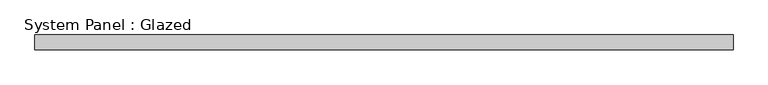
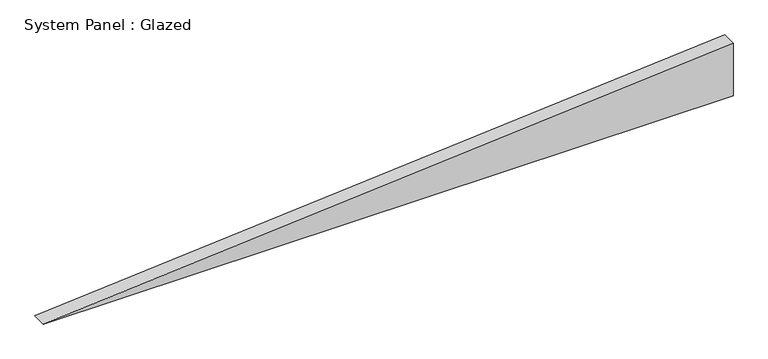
"""IFC4 building model written with IfcOpenShell, lengths in millimetres: plate geometry, System Panel : Glazed."""

import ifcopenshell
import ifcopenshell.guid

model = None  # the IFC model being written
_history = None  # IfcOwnerHistory: only IFC2X3 demands one
_inside = {}  # id of a spatial element -> (the spatial element, [elements in it])
_under = {}  # id of a project, library or spatial element -> (it, [spatial elements below it])
_declared = {}  # id of a project -> (the project, [libraries it declares])
_typed = {}  # id of a type object -> (the type object, [elements of that type])
_made_of = {}  # id of a material, layer set ... -> (it, [elements and type objects made of it])


def new_model(schema):
    """Start an empty IFC model of exactly this schema.

    Asked for "IFC4X3", IfcOpenShell would pick the latest addendum, in which some entities
    have other attributes; the version numbers below select the first issue.
    IFC2X3 requires an IfcOwnerHistory on every rooted entity: one is made here for all.
    """
    global model, _history
    if schema == "IFC4X3":
        model = ifcopenshell.file(schema_version=(4, 3, 0, 0))
    else:
        model = ifcopenshell.file(schema=schema)
    _inside.clear()
    _under.clear()
    _declared.clear()
    _typed.clear()
    _made_of.clear()
    _history = None
    if model.schema == "IFC2X3":
        org = make("IfcOrganization", Name="unknown")
        user = make(
            "IfcPersonAndOrganization",
            ThePerson=make("IfcPerson", FamilyName="unknown"),
            TheOrganization=org,
        )
        app = make(
            "IfcApplication",
            ApplicationDeveloper=org,
            Version="unknown",
            ApplicationFullName="unknown",
            ApplicationIdentifier="unknown",
        )
        _history = make(
            "IfcOwnerHistory",
            OwningUser=user,
            OwningApplication=app,
            ChangeAction="ADDED",
            CreationDate=0,
        )
    return model


def make(cls, **values):
    """One entity of the class cls with the attributes given. An attribute that is None is left unset."""
    return model.create_entity(
        cls, **{name: value for name, value in values.items() if value is not None}
    )


def rooted(cls, **values):
    """An entity with a GlobalId (a new one), such as an element, a storey or a relation."""
    return make(cls, GlobalId=ifcopenshell.guid.new(), OwnerHistory=_history, **values)


def si_unit(unit_type, name, prefix=None):
    """IfcSIUnit, for example si_unit("LENGTHUNIT", "METRE", prefix="MILLI")."""
    return make("IfcSIUnit", UnitType=unit_type, Prefix=prefix, Name=name)


def assignment(units):
    """IfcUnitAssignment: the units of a project."""
    return None if units is None else make("IfcUnitAssignment", Units=units)


def point(xyz):
    """IfcCartesianPoint."""
    return None if xyz is None else make("IfcCartesianPoint", Coordinates=xyz)


def direction(xyz):
    """IfcDirection."""
    return None if xyz is None else make("IfcDirection", DirectionRatios=xyz)


def frame(location, z_axis=None, x_axis=None):
    """IfcAxis2Placement3D, a coordinate frame: its origin and axes. An axis left out is left unset."""
    return make(
        "IfcAxis2Placement3D",
        Location=point(location),
        Axis=direction(z_axis),
        RefDirection=direction(x_axis),
    )


def origin():
    """The frame at (0, 0, 0) with its axes left unset."""
    return frame((0.0, 0.0, 0.0))


def place(relative_to, where):
    """IfcLocalPlacement: puts the frame where relative to a parent placement (None: the world)."""
    return make(
        "IfcLocalPlacement", PlacementRelTo=relative_to, RelativePlacement=where
    )


def context(
    kind, dimensions, precision=None, world=None, true_north=None, identifier=None
):
    """IfcGeometricRepresentationContext, for example the 3D "Model" context."""
    return make(
        "IfcGeometricRepresentationContext",
        ContextIdentifier=identifier,
        ContextType=kind,
        CoordinateSpaceDimension=dimensions,
        Precision=precision,
        WorldCoordinateSystem=world,
        TrueNorth=true_north,
    )


def project(units=None, contexts=None):
    """IfcProject with its units and contexts."""
    return rooted(
        "IfcProject",
        Name="project",
        RepresentationContexts=contexts,
        UnitsInContext=assignment(units),
    )


def spatial(cls, under=None, at=None, **own):
    """A site, building, storey or space (cls), placed at a placement, below another one or the project."""
    s = rooted(cls, ObjectPlacement=at, **own)
    if under is not None:
        _under.setdefault(under.id(), (under, []))[1].append(s)
    return s


def polyline(points):
    """IfcPolyline through the points."""
    return make("IfcPolyline", Points=[point(p) for p in points])


def outline(outer, holes=None, kind="AREA"):
    """IfcArbitraryClosedProfileDef: a profile drawn as a closed curve; with holes, ...WithVoids."""
    if holes is None:
        return make("IfcArbitraryClosedProfileDef", ProfileType=kind, OuterCurve=outer)
    return make(
        "IfcArbitraryProfileDefWithVoids",
        ProfileType=kind,
        OuterCurve=outer,
        InnerCurves=holes,
    )


def extrude(swept, where, along, depth):
    """IfcExtrudedAreaSolid: the profile swept, set in the frame where, extruded along a direction by depth."""
    return make(
        "IfcExtrudedAreaSolid",
        SweptArea=swept,
        Position=where,
        ExtrudedDirection=direction(along),
        Depth=depth,
    )


def shape(context_of_items, identifier, shape_type, items):
    """IfcShapeRepresentation: the items that make up one representation, for example the "Body"."""
    return make(
        "IfcShapeRepresentation",
        ContextOfItems=context_of_items,
        RepresentationIdentifier=identifier,
        RepresentationType=shape_type,
        Items=items,
    )


def source(mapping_origin, context_of_items, identifier, shape_type, items):
    """IfcRepresentationMap: a shape defined once, which mapped items show again and again."""
    return make(
        "IfcRepresentationMap",
        MappingOrigin=mapping_origin,
        MappedRepresentation=shape(context_of_items, identifier, shape_type, items),
    )


def transform(
    local_origin,
    x_axis=None,
    y_axis=None,
    z_axis=None,
    scale=None,
    scale2=None,
    scale3=None,
    uniform=True,
):
    """IfcCartesianTransformationOperator3D, or its non-uniform kind. x_axis, y_axis, z_axis: its Axis1, 2, 3."""
    if uniform:
        return make(
            "IfcCartesianTransformationOperator3D",
            Axis1=direction(x_axis),
            Axis2=direction(y_axis),
            LocalOrigin=point(local_origin),
            Scale=scale,
            Axis3=direction(z_axis),
        )
    return make(
        "IfcCartesianTransformationOperator3DnonUniform",
        Axis1=direction(x_axis),
        Axis2=direction(y_axis),
        LocalOrigin=point(local_origin),
        Scale=scale,
        Axis3=direction(z_axis),
        Scale2=scale2,
        Scale3=scale3,
    )


def mapped(mapping_source, mapping_target):
    """IfcMappedItem: shows the shape of a source again, moved by a transform."""
    return make(
        "IfcMappedItem", MappingSource=mapping_source, MappingTarget=mapping_target
    )


def made_of(thing, what):
    """Note that an element or type object is made of a material, layer set ...; save() writes the relation."""
    if what is not None:
        _made_of.setdefault(what.id(), (what, []))[1].append(thing)
    return thing


def element(
    cls,
    number,
    at=None,
    inside=None,
    cuts=None,
    type_object=None,
    material=None,
    context=None,
    identifier="Body",
    shape_type=None,
    held_by="IfcProductDefinitionShape",
    body=None,
    shapes=None,
    **own,
):
    """One element of the class cls, such as IfcWall. Its Tag is "e" and its number.

    at: its placement. inside: the storey or other place that contains it. cuts: it is an
    opening in that element (IfcRelVoidsElement). A single representation is given by context,
    identifier, shape_type and body (its items); several are given by shapes. held_by: the class
    of the entity that holds the representations. save() writes the other relations.
    """
    e = rooted(cls, Tag="e%d" % number, ObjectPlacement=at, **own)
    if body is not None:
        shapes = [shape(context, identifier, shape_type, body)]
    if shapes is not None:
        e.Representation = make(held_by, Representations=shapes)
    if inside is not None:
        _inside.setdefault(inside.id(), (inside, []))[1].append(e)
    if cuts is not None:
        rooted(
            "IfcRelVoidsElement", RelatingBuildingElement=cuts, RelatedOpeningElement=e
        )
    if type_object is not None:
        _typed.setdefault(type_object.id(), (type_object, []))[1].append(e)
    return made_of(e, material)


def aggregate(whole, parts):
    """IfcRelAggregates: a whole, such as a stair, and the parts it consists of."""
    return rooted("IfcRelAggregates", RelatingObject=whole, RelatedObjects=parts)


def save(model, path):
    """Write the relations noted so far, then the file.

    IfcRelAggregates (storeys below a building ...), IfcRelContainedInSpatialStructure (elements
    in a storey), IfcRelDefinesByType, IfcRelAssociatesMaterial and IfcRelDeclares: one each for
    every whole, place, type object, material and project.
    """
    for whole, parts in _under.values():
        aggregate(whole, parts)
    for where, things in _inside.values():
        rooted(
            "IfcRelContainedInSpatialStructure",
            RelatedElements=things,
            RelatingStructure=where,
        )
    for kind, things in _typed.values():
        rooted("IfcRelDefinesByType", RelatedObjects=things, RelatingType=kind)
    for what, things in _made_of.values():
        rooted("IfcRelAssociatesMaterial", RelatedObjects=things, RelatingMaterial=what)
    for by, libraries in _declared.values():
        rooted("IfcRelDeclares", RelatingContext=by, RelatedDefinitions=libraries)
    model.write(path)


def system_panel_glazed_f9ab01ed(model_context):
    return source(origin(), model_context, "Body", "SweptSolid", [
        extrude(outline(polyline([(0.0, -592.358698), (0.0, 592.358698), (94.9323273, 592.358698), (0.0, -592.358698)])), frame((0.0, 19.05, 0.0), z_axis=(0.0, 1.0, 0.0), x_axis=(0.0, 0.0, 1.0)), (0.0, 0.0, 1.0), 25.4),
    ])


if __name__ == "__main__":
    model = new_model("IFC4")
    model_context = context("Model", 3, world=origin())
    ifc_project = project(units=[si_unit("LENGTHUNIT", "METRE", prefix="MILLI")], contexts=[model_context])
    site = spatial("IfcSite", under=ifc_project)
    building = spatial("IfcBuilding", under=site)
    placement = place(None, origin())
    system_panel_glazed_shape = system_panel_glazed_f9ab01ed(model_context)
    element("IfcPlate", 1, ObjectType="System Panel : Glazed", at=placement, inside=building, context=model_context, shape_type="MappedRepresentation", body=[
        mapped(system_panel_glazed_shape, transform((0.0, 0.0, 0.0), x_axis=(1.0, 0.0, 0.0), y_axis=(0.0, 1.0, 0.0), z_axis=(0.0, 0.0, 1.0))),
    ])
    save(model, "model.ifc")
